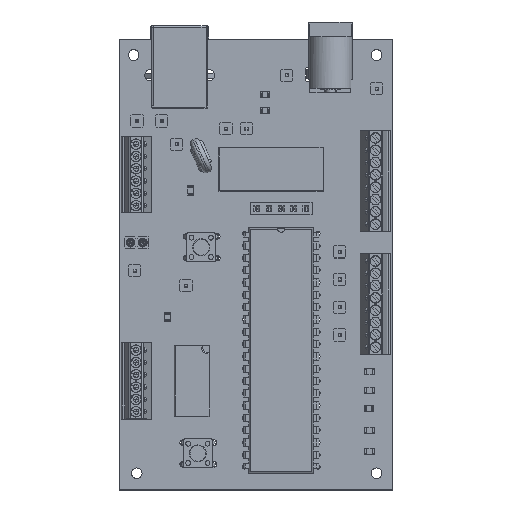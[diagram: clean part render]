
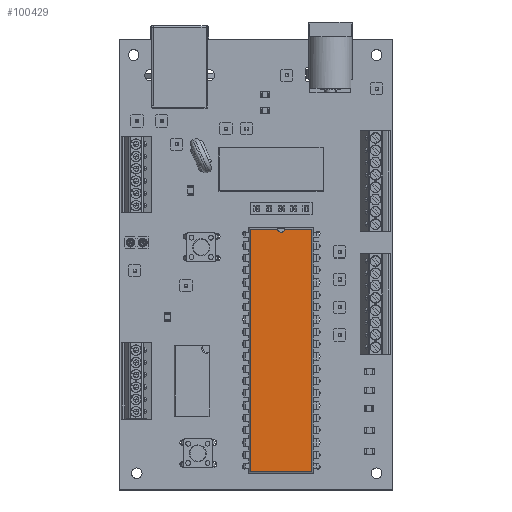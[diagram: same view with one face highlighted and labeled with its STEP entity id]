
A CAD part, top view. The second image highlights one B-rep face of the part: STEP entity #100429.
In plain terms, the highlighted planar face has unit normal (0, 0, 1).
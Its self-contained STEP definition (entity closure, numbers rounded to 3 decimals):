
#63515 = B_SPLINE_SURFACE_WITH_KNOTS('',1,1,(
    (#63516,#63517)
    ,(#63518,#63519
    )),.UNSPECIFIED.,.F.,.F.,.F.,(2,2),(2,2),(0.,50.65),(0.,1.
    ),.PIECEWISE_BEZIER_KNOTS.);
#63516 = CARTESIAN_POINT('',(14.276,-49.455,2.157));
#63517 = CARTESIAN_POINT('',(13.952,-49.131,3.68));
#63518 = CARTESIAN_POINT('',(14.276,1.195,2.157));
#63519 = CARTESIAN_POINT('',(13.952,0.871,3.68));
#71933 = B_SPLINE_SURFACE_WITH_KNOTS('',1,1,(
    (#71934,#71935)
    ,(#71936,#71937
    )),.UNSPECIFIED.,.F.,.F.,.F.,(2,2),(2,2),(0.,13.312),(0.,
    1.),.PIECEWISE_BEZIER_KNOTS.);
#71934 = CARTESIAN_POINT('',(14.276,1.195,2.157));
#71935 = CARTESIAN_POINT('',(13.952,0.871,3.68));
#71936 = CARTESIAN_POINT('',(0.964,1.195,2.157));
#71937 = CARTESIAN_POINT('',(1.288,0.871,3.68));
#71991 = B_SPLINE_SURFACE_WITH_KNOTS('',1,1,(
    (#71992,#71993)
    ,(#71994,#71995
    )),.UNSPECIFIED.,.F.,.F.,.F.,(2,2),(2,2),(0.,50.65),(0.,1.
    ),.PIECEWISE_BEZIER_KNOTS.);
#71992 = CARTESIAN_POINT('',(0.964,1.195,2.157));
#71993 = CARTESIAN_POINT('',(1.288,0.871,3.68));
#71994 = CARTESIAN_POINT('',(0.964,-49.455,2.157));
#71995 = CARTESIAN_POINT('',(1.288,-49.131,3.68));
#80396 = B_SPLINE_SURFACE_WITH_KNOTS('',1,1,(
    (#80397,#80398)
    ,(#80399,#80400
    )),.UNSPECIFIED.,.F.,.F.,.F.,(2,2),(2,2),(0.,13.312),(0.,
    1.),.PIECEWISE_BEZIER_KNOTS.);
#80397 = CARTESIAN_POINT('',(0.964,-49.455,2.157));
#80398 = CARTESIAN_POINT('',(1.288,-49.131,3.68));
#80399 = CARTESIAN_POINT('',(14.276,-49.455,2.157));
#80400 = CARTESIAN_POINT('',(13.952,-49.131,3.68));
#80854 = VERTEX_POINT('',#80855);
#80855 = CARTESIAN_POINT('',(13.952,0.871,3.68));
#80875 = EDGE_CURVE('',#80876,#80854,#80878,.T.);
#80876 = VERTEX_POINT('',#80877);
#80877 = CARTESIAN_POINT('',(13.952,-49.131,3.68));
#80878 = SURFACE_CURVE('',#80879,(#80883,#80889),.PCURVE_S1.);
#80879 = LINE('',#80880,#80881);
#80880 = CARTESIAN_POINT('',(13.952,-49.131,3.68));
#80881 = VECTOR('',#80882,1.);
#80882 = DIRECTION('',(0.,1.,0.));
#80883 = PCURVE('',#63515,#80884);
#80884 = DEFINITIONAL_REPRESENTATION('',(#80885),#80888);
#80885 = B_SPLINE_CURVE_WITH_KNOTS('',1,(#80886,#80887),.UNSPECIFIED.,
  .F.,.F.,(2,2),(0.,50.003),.PIECEWISE_BEZIER_KNOTS.);
#80886 = CARTESIAN_POINT('',(0.,1.));
#80887 = CARTESIAN_POINT('',(50.65,1.));
#80888 = ( GEOMETRIC_REPRESENTATION_CONTEXT(2) 
PARAMETRIC_REPRESENTATION_CONTEXT() REPRESENTATION_CONTEXT('2D SPACE',''
  ) );
#80889 = PCURVE('',#80890,#80895);
#80890 = PLANE('',#80891);
#80891 = AXIS2_PLACEMENT_3D('',#80892,#80893,#80894);
#80892 = CARTESIAN_POINT('',(13.952,-49.131,3.68));
#80893 = DIRECTION('',(0.,0.,-1.));
#80894 = DIRECTION('',(-0.246,0.969,0.));
#80895 = DEFINITIONAL_REPRESENTATION('',(#80896),#80900);
#80896 = LINE('',#80897,#80898);
#80897 = CARTESIAN_POINT('',(0.,0.));
#80898 = VECTOR('',#80899,1.);
#80899 = DIRECTION('',(0.969,0.246));
#80900 = ( GEOMETRIC_REPRESENTATION_CONTEXT(2) 
PARAMETRIC_REPRESENTATION_CONTEXT() REPRESENTATION_CONTEXT('2D SPACE',''
  ) );
#90024 = VERTEX_POINT('',#90025);
#90025 = CARTESIAN_POINT('',(1.288,0.871,3.68));
#90045 = EDGE_CURVE('',#90046,#90024,#90048,.T.);
#90046 = VERTEX_POINT('',#90047);
#90047 = CARTESIAN_POINT('',(6.874,0.871,3.68));
#90048 = SURFACE_CURVE('',#90049,(#90053,#90059),.PCURVE_S1.);
#90049 = LINE('',#90050,#90051);
#90050 = CARTESIAN_POINT('',(13.952,0.871,3.68));
#90051 = VECTOR('',#90052,1.);
#90052 = DIRECTION('',(-1.,0.,0.));
#90053 = PCURVE('',#71933,#90054);
#90054 = DEFINITIONAL_REPRESENTATION('',(#90055),#90058);
#90055 = B_SPLINE_CURVE_WITH_KNOTS('',1,(#90056,#90057),.UNSPECIFIED.,
  .F.,.F.,(2,2),(7.079,12.665),
  .PIECEWISE_BEZIER_KNOTS.);
#90056 = CARTESIAN_POINT('',(7.44,1.));
#90057 = CARTESIAN_POINT('',(13.312,1.));
#90058 = ( GEOMETRIC_REPRESENTATION_CONTEXT(2) 
PARAMETRIC_REPRESENTATION_CONTEXT() REPRESENTATION_CONTEXT('2D SPACE',''
  ) );
#90059 = PCURVE('',#80890,#90060);
#90060 = DEFINITIONAL_REPRESENTATION('',(#90061),#90065);
#90061 = LINE('',#90062,#90063);
#90062 = CARTESIAN_POINT('',(48.472,12.277));
#90063 = VECTOR('',#90064,1.);
#90064 = DIRECTION('',(0.246,-0.969));
#90065 = ( GEOMETRIC_REPRESENTATION_CONTEXT(2) 
PARAMETRIC_REPRESENTATION_CONTEXT() REPRESENTATION_CONTEXT('2D SPACE',''
  ) );
#90247 = CYLINDRICAL_SURFACE('',#90248,0.75);
#90248 = AXIS2_PLACEMENT_3D('',#90249,#90250,#90251);
#90249 = CARTESIAN_POINT('',(7.62,0.946,3.68));
#90250 = DIRECTION('',(0.,0.,-1.));
#90251 = DIRECTION('',(0.,-1.,0.));
#90549 = VERTEX_POINT('',#90550);
#90550 = CARTESIAN_POINT('',(8.366,0.871,3.68));
#90801 = EDGE_CURVE('',#80854,#90549,#90802,.T.);
#90802 = SURFACE_CURVE('',#90803,(#90807,#90813),.PCURVE_S1.);
#90803 = LINE('',#90804,#90805);
#90804 = CARTESIAN_POINT('',(13.952,0.871,3.68));
#90805 = VECTOR('',#90806,1.);
#90806 = DIRECTION('',(-1.,0.,0.));
#90807 = PCURVE('',#71933,#90808);
#90808 = DEFINITIONAL_REPRESENTATION('',(#90809),#90812);
#90809 = B_SPLINE_CURVE_WITH_KNOTS('',1,(#90810,#90811),.UNSPECIFIED.,
  .F.,.F.,(2,2),(0.,5.586),.PIECEWISE_BEZIER_KNOTS.);
#90810 = CARTESIAN_POINT('',(0.,1.));
#90811 = CARTESIAN_POINT('',(5.872,1.));
#90812 = ( GEOMETRIC_REPRESENTATION_CONTEXT(2) 
PARAMETRIC_REPRESENTATION_CONTEXT() REPRESENTATION_CONTEXT('2D SPACE',''
  ) );
#90813 = PCURVE('',#80890,#90814);
#90814 = DEFINITIONAL_REPRESENTATION('',(#90815),#90819);
#90815 = LINE('',#90816,#90817);
#90816 = CARTESIAN_POINT('',(48.472,12.277));
#90817 = VECTOR('',#90818,1.);
#90818 = DIRECTION('',(0.246,-0.969));
#90819 = ( GEOMETRIC_REPRESENTATION_CONTEXT(2) 
PARAMETRIC_REPRESENTATION_CONTEXT() REPRESENTATION_CONTEXT('2D SPACE',''
  ) );
#91266 = VERTEX_POINT('',#91267);
#91267 = CARTESIAN_POINT('',(1.288,-49.131,3.68));
#91287 = EDGE_CURVE('',#90024,#91266,#91288,.T.);
#91288 = SURFACE_CURVE('',#91289,(#91293,#91299),.PCURVE_S1.);
#91289 = LINE('',#91290,#91291);
#91290 = CARTESIAN_POINT('',(1.288,0.871,3.68));
#91291 = VECTOR('',#91292,1.);
#91292 = DIRECTION('',(0.,-1.,0.));
#91293 = PCURVE('',#71991,#91294);
#91294 = DEFINITIONAL_REPRESENTATION('',(#91295),#91298);
#91295 = B_SPLINE_CURVE_WITH_KNOTS('',1,(#91296,#91297),.UNSPECIFIED.,
  .F.,.F.,(2,2),(0.,50.003),.PIECEWISE_BEZIER_KNOTS.);
#91296 = CARTESIAN_POINT('',(0.,1.));
#91297 = CARTESIAN_POINT('',(50.65,1.));
#91298 = ( GEOMETRIC_REPRESENTATION_CONTEXT(2) 
PARAMETRIC_REPRESENTATION_CONTEXT() REPRESENTATION_CONTEXT('2D SPACE',''
  ) );
#91299 = PCURVE('',#80890,#91300);
#91300 = DEFINITIONAL_REPRESENTATION('',(#91301),#91305);
#91301 = LINE('',#91302,#91303);
#91302 = CARTESIAN_POINT('',(51.581,0.));
#91303 = VECTOR('',#91304,1.);
#91304 = DIRECTION('',(-0.969,-0.246));
#91305 = ( GEOMETRIC_REPRESENTATION_CONTEXT(2) 
PARAMETRIC_REPRESENTATION_CONTEXT() REPRESENTATION_CONTEXT('2D SPACE',''
  ) );
#100409 = EDGE_CURVE('',#91266,#80876,#100410,.T.);
#100410 = SURFACE_CURVE('',#100411,(#100415,#100421),.PCURVE_S1.);
#100411 = LINE('',#100412,#100413);
#100412 = CARTESIAN_POINT('',(1.288,-49.131,3.68));
#100413 = VECTOR('',#100414,1.);
#100414 = DIRECTION('',(1.,0.,0.));
#100415 = PCURVE('',#80396,#100416);
#100416 = DEFINITIONAL_REPRESENTATION('',(#100417),#100420);
#100417 = B_SPLINE_CURVE_WITH_KNOTS('',1,(#100418,#100419),
  .UNSPECIFIED.,.F.,.F.,(2,2),(0.,12.665),
  .PIECEWISE_BEZIER_KNOTS.);
#100418 = CARTESIAN_POINT('',(0.,1.));
#100419 = CARTESIAN_POINT('',(13.312,1.));
#100420 = ( GEOMETRIC_REPRESENTATION_CONTEXT(2) 
PARAMETRIC_REPRESENTATION_CONTEXT() REPRESENTATION_CONTEXT('2D SPACE',''
  ) );
#100421 = PCURVE('',#80890,#100422);
#100422 = DEFINITIONAL_REPRESENTATION('',(#100423),#100427);
#100423 = LINE('',#100424,#100425);
#100424 = CARTESIAN_POINT('',(3.109,-12.277));
#100425 = VECTOR('',#100426,1.);
#100426 = DIRECTION('',(-0.246,0.969));
#100427 = ( GEOMETRIC_REPRESENTATION_CONTEXT(2) 
PARAMETRIC_REPRESENTATION_CONTEXT() REPRESENTATION_CONTEXT('2D SPACE',''
  ) );
#100429 = ADVANCED_FACE('',(#100430),#80890,.F.);
#100430 = FACE_BOUND('',#100431,.F.);
#100431 = EDGE_LOOP('',(#100432,#100433,#100434,#100435,#100436,#100460,
    #100482));
#100432 = ORIENTED_EDGE('',*,*,#80875,.F.);
#100433 = ORIENTED_EDGE('',*,*,#100409,.F.);
#100434 = ORIENTED_EDGE('',*,*,#91287,.F.);
#100435 = ORIENTED_EDGE('',*,*,#90045,.F.);
#100436 = ORIENTED_EDGE('',*,*,#100437,.F.);
#100437 = EDGE_CURVE('',#100438,#90046,#100440,.T.);
#100438 = VERTEX_POINT('',#100439);
#100439 = CARTESIAN_POINT('',(7.62,0.196,3.68));
#100440 = SURFACE_CURVE('',#100441,(#100446,#100453),.PCURVE_S1.);
#100441 = CIRCLE('',#100442,0.75);
#100442 = AXIS2_PLACEMENT_3D('',#100443,#100444,#100445);
#100443 = CARTESIAN_POINT('',(7.62,0.946,3.68));
#100444 = DIRECTION('',(0.,0.,-1.));
#100445 = DIRECTION('',(0.,-1.,0.));
#100446 = PCURVE('',#80890,#100447);
#100447 = DEFINITIONAL_REPRESENTATION('',(#100448),#100452);
#100448 = CIRCLE('',#100449,0.75);
#100449 = AXIS2_PLACEMENT_2D('',#100450,#100451);
#100450 = CARTESIAN_POINT('',(50.099,6.157));
#100451 = DIRECTION('',(-0.969,-0.246));
#100452 = ( GEOMETRIC_REPRESENTATION_CONTEXT(2) 
PARAMETRIC_REPRESENTATION_CONTEXT() REPRESENTATION_CONTEXT('2D SPACE',''
  ) );
#100453 = PCURVE('',#90247,#100454);
#100454 = DEFINITIONAL_REPRESENTATION('',(#100455),#100459);
#100455 = LINE('',#100456,#100457);
#100456 = CARTESIAN_POINT('',(0.,0.));
#100457 = VECTOR('',#100458,1.);
#100458 = DIRECTION('',(1.,0.));
#100459 = ( GEOMETRIC_REPRESENTATION_CONTEXT(2) 
PARAMETRIC_REPRESENTATION_CONTEXT() REPRESENTATION_CONTEXT('2D SPACE',''
  ) );
#100460 = ORIENTED_EDGE('',*,*,#100461,.F.);
#100461 = EDGE_CURVE('',#90549,#100438,#100462,.T.);
#100462 = SURFACE_CURVE('',#100463,(#100468,#100475),.PCURVE_S1.);
#100463 = CIRCLE('',#100464,0.75);
#100464 = AXIS2_PLACEMENT_3D('',#100465,#100466,#100467);
#100465 = CARTESIAN_POINT('',(7.62,0.946,3.68));
#100466 = DIRECTION('',(0.,0.,-1.));
#100467 = DIRECTION('',(0.,-1.,0.));
#100468 = PCURVE('',#80890,#100469);
#100469 = DEFINITIONAL_REPRESENTATION('',(#100470),#100474);
#100470 = CIRCLE('',#100471,0.75);
#100471 = AXIS2_PLACEMENT_2D('',#100472,#100473);
#100472 = CARTESIAN_POINT('',(50.099,6.157));
#100473 = DIRECTION('',(-0.969,-0.246));
#100474 = ( GEOMETRIC_REPRESENTATION_CONTEXT(2) 
PARAMETRIC_REPRESENTATION_CONTEXT() REPRESENTATION_CONTEXT('2D SPACE',''
  ) );
#100475 = PCURVE('',#90247,#100476);
#100476 = DEFINITIONAL_REPRESENTATION('',(#100477),#100481);
#100477 = LINE('',#100478,#100479);
#100478 = CARTESIAN_POINT('',(-6.283,0.));
#100479 = VECTOR('',#100480,1.);
#100480 = DIRECTION('',(1.,0.));
#100481 = ( GEOMETRIC_REPRESENTATION_CONTEXT(2) 
PARAMETRIC_REPRESENTATION_CONTEXT() REPRESENTATION_CONTEXT('2D SPACE',''
  ) );
#100482 = ORIENTED_EDGE('',*,*,#90801,.F.);
